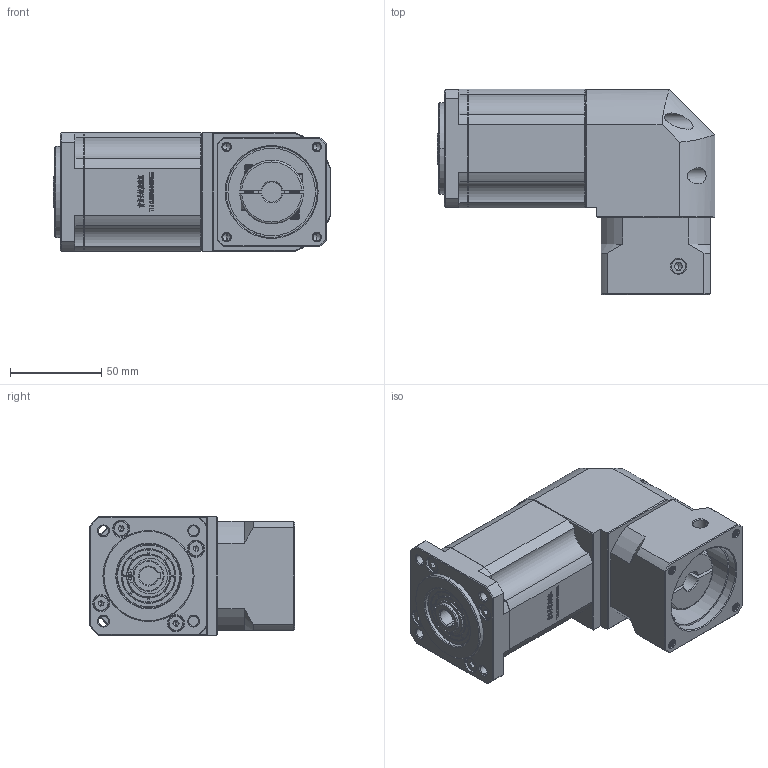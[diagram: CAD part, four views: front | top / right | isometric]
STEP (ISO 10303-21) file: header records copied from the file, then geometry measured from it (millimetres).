
FILE_DESCRIPTION (( 'STEP AP214' ), '1' );
FILE_NAME ('ZBR60-K10-L3-11-50-70-M5.STEP', '2022-04-19T08:26:42', ( '' ), ( 'Microsoft' ), 'SwSTEP 2.0', 'SolidWorks 2016', '' );
FILE_SCHEMA (( 'AUTOMOTIVE_DESIGN' ));
Length unit declared in the file: millimetre
Products named in the file (1): ZBR60-K10-L3-11-50-70-M5
Bounding box: 152.5 x 112.7 x 65 mm (x, y, z)
Volume: 639788.6 mm3; surface area: 84829.7 mm2
Topology: 5 solids, 5 shells, 2790 faces, 7567 edges, 4916 vertices
Faces by surface type: plane 1469, bspline 572, cylinder 393, cone 324, torus 32
Entity records: 149293 total; most frequent: CARTESIAN_POINT 52288, ORIENTED_EDGE 15078, DIRECTION 11581, EDGE_CURVE 7539, VECTOR 5007, LINE 5007, VERTEX_POINT 4916, AXIS2_PLACEMENT_3D 3287
